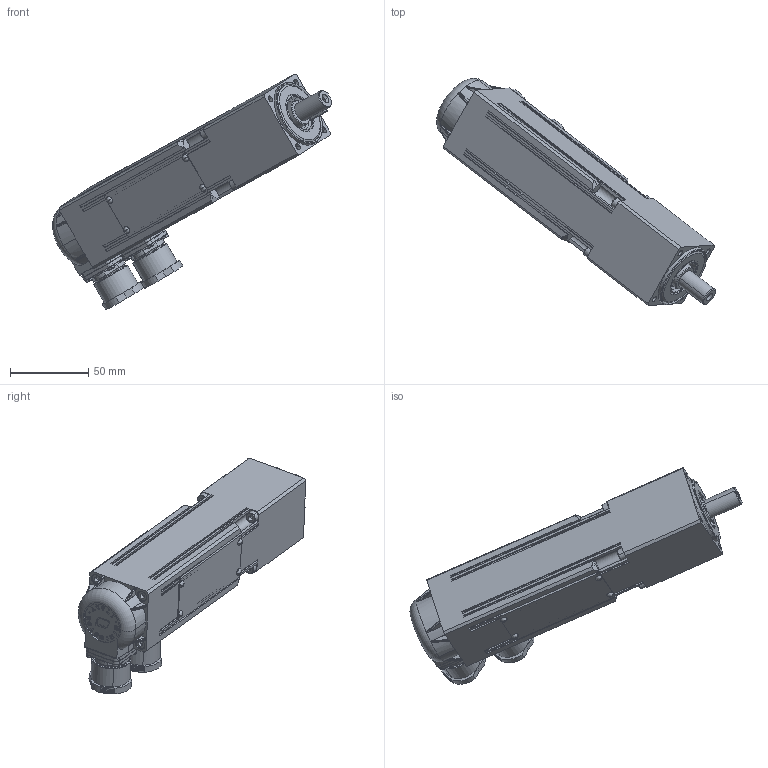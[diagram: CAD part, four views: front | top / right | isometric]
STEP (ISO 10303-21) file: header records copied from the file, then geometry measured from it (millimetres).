
FILE_DESCRIPTION((''),'2;1');
FILE_NAME('C:\Documents and Settings\marco\Desktop\DATI\DATI MARCO\Disegni inventor\STEP\BSE45\BSE45_70RC-1 stadio.stp','2003-08-26T16:13:36',('Administrator'),(''),'Autodesk Inventor 7','Autodesk Inventor 7','');
FILE_SCHEMA(('AUTOMOTIVE_DESIGN { 1 0 10303 214 1 1 1 1 }'));
Length unit declared in the file: millimetre
Products named in the file (1): BSE45_70RC-1 stadio
Bounding box: 178.26 x 145.36 x 150.83 mm (x, y, z)
Volume: 196279.8 mm3; surface area: 110009.5 mm2
Topology: 43 solids, 43 shells, 3352 faces, 9010 edges, 5844 vertices
Faces by surface type: plane 1784, cylinder 806, bspline 389, cone 274, torus 99
Entity records: 115203 total; most frequent: CARTESIAN_POINT 30744, ORIENTED_EDGE 17964, DIRECTION 17493, EDGE_CURVE 8982, AXIS2_PLACEMENT_3D 5917, VERTEX_POINT 5844, VECTOR 5659, LINE 5659
